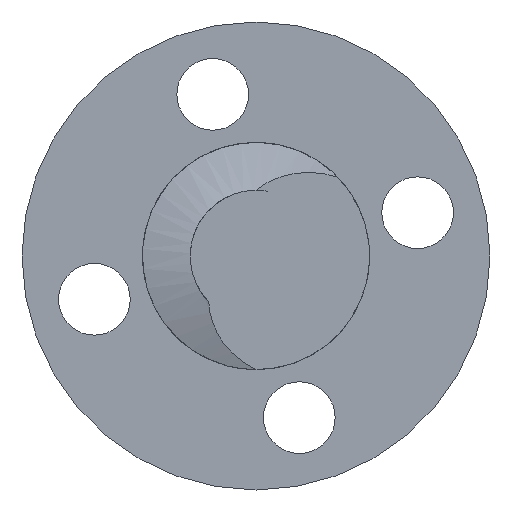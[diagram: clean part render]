
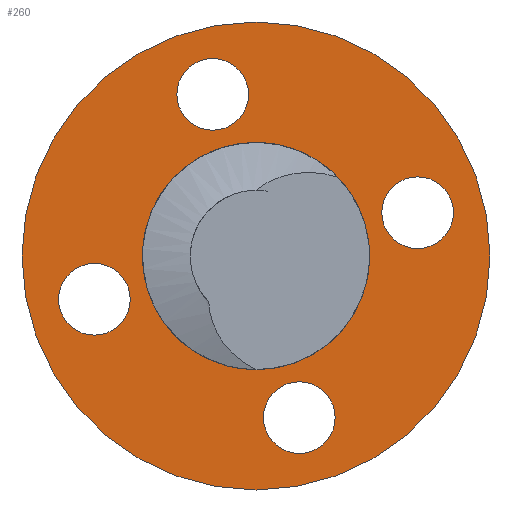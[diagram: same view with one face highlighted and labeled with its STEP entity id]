
A CAD part, front view. The second image highlights one B-rep face of the part: STEP entity #260.
In plain terms, the highlighted planar face has unit normal (0, -1, 0).
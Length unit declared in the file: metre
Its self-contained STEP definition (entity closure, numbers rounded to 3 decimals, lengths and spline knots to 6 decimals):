
#40=PLANE('',#293);
#47=ORIENTED_EDGE('',*,*,#111,.F.);
#48=ORIENTED_EDGE('',*,*,#112,.F.);
#49=ORIENTED_EDGE('',*,*,#113,.F.);
#50=ORIENTED_EDGE('',*,*,#114,.F.);
#51=ORIENTED_EDGE('',*,*,#115,.F.);
#52=ORIENTED_EDGE('',*,*,#109,.F.);
#109=EDGE_CURVE('',#141,#141,#166,.T.);
#111=EDGE_CURVE('',#143,#143,#168,.T.);
#112=EDGE_CURVE('',#144,#144,#169,.T.);
#113=EDGE_CURVE('',#145,#145,#170,.T.);
#114=EDGE_CURVE('',#146,#146,#171,.T.);
#115=EDGE_CURVE('',#147,#147,#172,.T.);
#141=VERTEX_POINT('',#388);
#143=VERTEX_POINT('',#393);
#144=VERTEX_POINT('',#395);
#145=VERTEX_POINT('',#397);
#146=VERTEX_POINT('',#399);
#147=VERTEX_POINT('',#401);
#166=CIRCLE('',#291,0.009789);
#168=CIRCLE('',#294,0.0015);
#169=CIRCLE('',#295,0.0015);
#170=CIRCLE('',#296,0.0015);
#171=CIRCLE('',#297,0.0015);
#172=CIRCLE('',#298,0.00475);
#183=EDGE_LOOP('',(#47));
#184=EDGE_LOOP('',(#48));
#185=EDGE_LOOP('',(#49));
#186=EDGE_LOOP('',(#50));
#187=EDGE_LOOP('',(#51));
#188=EDGE_LOOP('',(#52));
#218=FACE_BOUND('',#183,.T.);
#219=FACE_BOUND('',#184,.T.);
#220=FACE_BOUND('',#185,.T.);
#221=FACE_BOUND('',#186,.T.);
#222=FACE_BOUND('',#187,.T.);
#223=FACE_BOUND('',#188,.T.);
#260=ADVANCED_FACE('',(#218,#219,#220,#221,#222,#223),#40,.T.);
#291=AXIS2_PLACEMENT_3D('',#387,#323,#324);
#293=AXIS2_PLACEMENT_3D('',#391,#327,#328);
#294=AXIS2_PLACEMENT_3D('',#392,#329,#330);
#295=AXIS2_PLACEMENT_3D('',#394,#331,#332);
#296=AXIS2_PLACEMENT_3D('',#396,#333,#334);
#297=AXIS2_PLACEMENT_3D('',#398,#335,#336);
#298=AXIS2_PLACEMENT_3D('',#400,#337,#338);
#323=DIRECTION('',(0.,1.,0.));
#324=DIRECTION('',(0.,0.,1.));
#327=DIRECTION('',(0.,-1.,0.));
#328=DIRECTION('',(0.966,0.,0.259));
#329=DIRECTION('',(0.,-1.,0.));
#330=DIRECTION('',(0.,0.,-1.));
#331=DIRECTION('',(0.,-1.,0.));
#332=DIRECTION('',(0.,0.,-1.));
#333=DIRECTION('',(0.,-1.,0.));
#334=DIRECTION('',(0.,0.,-1.));
#335=DIRECTION('',(0.,-1.,0.));
#336=DIRECTION('',(0.,0.,-1.));
#337=DIRECTION('',(0.,-1.,0.));
#338=DIRECTION('',(0.,0.,-1.));
#387=CARTESIAN_POINT('',(-0.007207,0.0251,0.060666));
#388=CARTESIAN_POINT('',(-0.007207,0.0251,0.070455));
#391=CARTESIAN_POINT('',(-0.007207,0.0251,0.060666));
#392=CARTESIAN_POINT('',(-0.005395,0.0251,0.053905));
#393=CARTESIAN_POINT('',(-0.005395,0.0251,0.052405));
#394=CARTESIAN_POINT('',(-0.000445,0.0251,0.062478));
#395=CARTESIAN_POINT('',(-0.000445,0.0251,0.060978));
#396=CARTESIAN_POINT('',(-0.013968,0.0251,0.058855));
#397=CARTESIAN_POINT('',(-0.013968,0.0251,0.057355));
#398=CARTESIAN_POINT('',(-0.009019,0.0251,0.067428));
#399=CARTESIAN_POINT('',(-0.009019,0.0251,0.065928));
#400=CARTESIAN_POINT('',(-0.007207,0.0251,0.060666));
#401=CARTESIAN_POINT('',(-0.007207,0.0251,0.055916));
